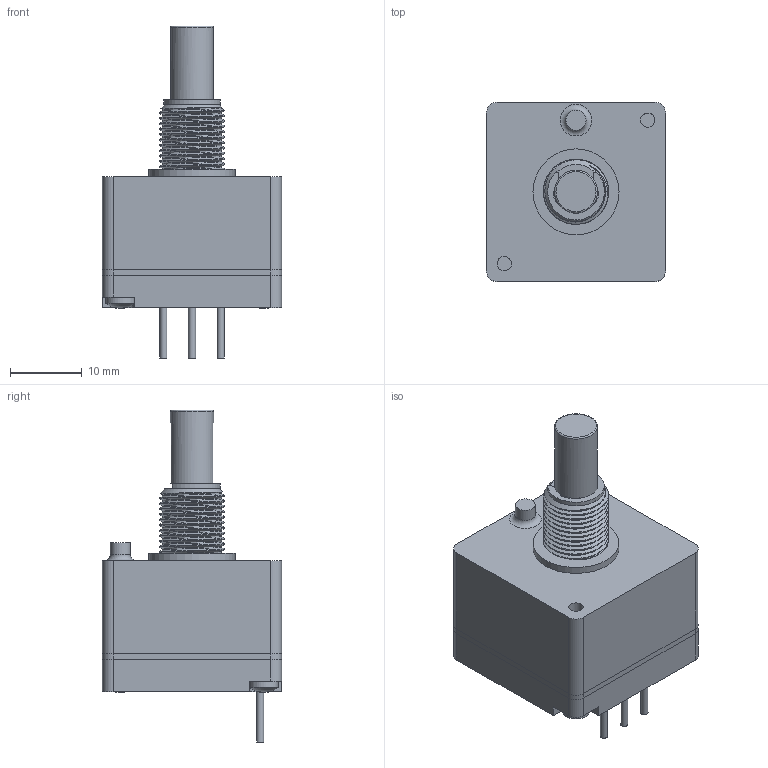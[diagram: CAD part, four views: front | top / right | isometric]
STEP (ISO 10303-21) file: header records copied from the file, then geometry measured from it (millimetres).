
FILE_DESCRIPTION(('FreeCAD Model'),'2;1');
FILE_NAME('Open CASCADE Shape Model','2023-03-22T14:16:35',(''),(''), 'Open CASCADE STEP processor 7.6','FreeCAD','Unknown');
FILE_SCHEMA(('AUTOMOTIVE_DESIGN { 1 0 10303 214 1 1 1 1 }'));
Length unit declared in the file: millimetre
Products named in the file (1): Fusion015
Bounding box: 25 x 25 x 46.3 mm (x, y, z)
Volume: 12283.7 mm3; surface area: 4120.5 mm2
Topology: 1 solids, 6 shells, 199 faces, 465 edges, 279 vertices
Faces by surface type: plane 83, cylinder 60, bspline 38, cone 12, sphere 2, torus 2, revolution 2
Full cylindrical faces by diameter (mm): 1 x3, 1.9 x2, 2 x4, 2.2 x6, 2.8 x1, 4.5 x1, 5.4 x1, 6 x1, 9.09 x11, 12 x1
Entity records: 21058 total; most frequent: CARTESIAN_POINT 11906, DIRECTION 1477, ORIENTED_EDGE 924, PCURVE 924, DEFINITIONAL_REPRESENTATION 924, LINE 658, VECTOR 658, EDGE_CURVE 462
